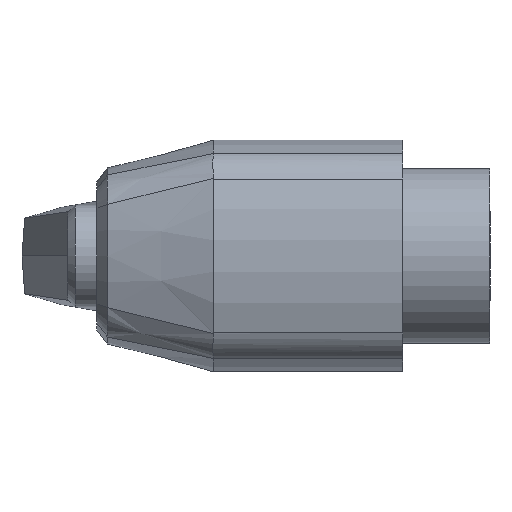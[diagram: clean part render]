
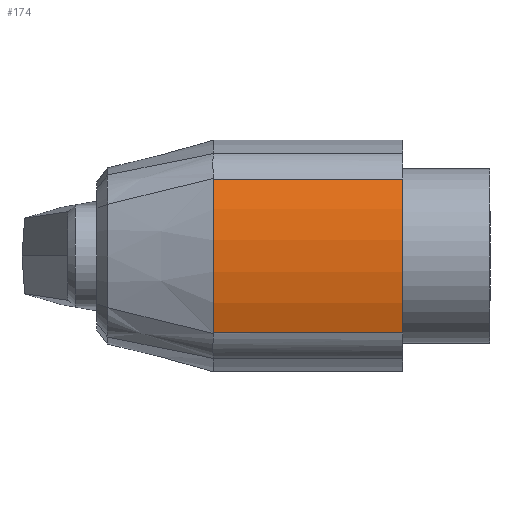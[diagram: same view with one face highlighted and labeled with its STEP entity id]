
A CAD part, left-side view. The second image highlights one B-rep face of the part: STEP entity #174.
In plain terms, the highlighted cylindrical face has radius 15.262 mm (diameter 30.524 mm), a partial arc.
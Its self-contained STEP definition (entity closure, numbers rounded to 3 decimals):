
#25 = ORIENTED_EDGE ( 'NONE', *, *, #1451, .T. ) ;
#37 = DIRECTION ( 'NONE',  ( 0., -1., 0. ) ) ;
#56 = EDGE_LOOP ( 'NONE', ( #197, #1170, #838, #25 ) ) ;
#96 = EDGE_CURVE ( 'NONE', #1201, #479, #298, .T. ) ;
#113 = DIRECTION ( 'NONE',  ( 0., 1., 0. ) ) ;
#174 = ADVANCED_FACE ( 'NONE', ( #467 ), #793, .T. ) ;
#197 = ORIENTED_EDGE ( 'NONE', *, *, #96, .F. ) ;
#298 = CIRCLE ( 'NONE', #1549, 15.262 ) ;
#373 = CARTESIAN_POINT ( 'NONE',  ( -7.057, 13., -5.281 ) ) ;
#393 = CARTESIAN_POINT ( 'NONE',  ( -7.057, 0., 5.281 ) ) ;
#406 = DIRECTION ( 'NONE',  ( 0., 0., -1. ) ) ;
#467 = FACE_OUTER_BOUND ( 'NONE', #56, .T. ) ;
#479 = VERTEX_POINT ( 'NONE', #1604 ) ;
#555 = CARTESIAN_POINT ( 'NONE',  ( -7.057, 13., -5.281 ) ) ;
#634 = DIRECTION ( 'NONE',  ( 0., 1., 0. ) ) ;
#635 = VECTOR ( 'NONE', #634, 1000. ) ;
#638 = VERTEX_POINT ( 'NONE', #393 ) ;
#674 = CIRCLE ( 'NONE', #1761, 15.262 ) ;
#679 = DIRECTION ( 'NONE',  ( 0., 0., 1. ) ) ;
#793 = CYLINDRICAL_SURFACE ( 'NONE', #928, 15.262 ) ;
#838 = ORIENTED_EDGE ( 'NONE', *, *, #1697, .T. ) ;
#852 = EDGE_CURVE ( 'NONE', #1201, #1051, #1054, .T. ) ;
#883 = CARTESIAN_POINT ( 'NONE',  ( 7.262, 13., 0. ) ) ;
#928 = AXIS2_PLACEMENT_3D ( 'NONE', #883, #37, #1315 ) ;
#1051 = VERTEX_POINT ( 'NONE', #1380 ) ;
#1054 = LINE ( 'NONE', #373, #1675 ) ;
#1170 = ORIENTED_EDGE ( 'NONE', *, *, #852, .T. ) ;
#1201 = VERTEX_POINT ( 'NONE', #555 ) ;
#1315 = DIRECTION ( 'NONE',  ( 0., 0., -1. ) ) ;
#1380 = CARTESIAN_POINT ( 'NONE',  ( -7.057, 0., -5.281 ) ) ;
#1451 = EDGE_CURVE ( 'NONE', #638, #479, #1602, .T. ) ;
#1505 = DIRECTION ( 'NONE',  ( 0., -1., 0. ) ) ;
#1508 = CARTESIAN_POINT ( 'NONE',  ( -7.057, 13., 5.281 ) ) ;
#1522 = DIRECTION ( 'NONE',  ( 0., 1., 0. ) ) ;
#1549 = AXIS2_PLACEMENT_3D ( 'NONE', #1826, #1522, #406 ) ;
#1602 = LINE ( 'NONE', #1508, #635 ) ;
#1604 = CARTESIAN_POINT ( 'NONE',  ( -7.057, 13., 5.281 ) ) ;
#1672 = CARTESIAN_POINT ( 'NONE',  ( 7.262, 0., 0. ) ) ;
#1675 = VECTOR ( 'NONE', #1505, 1000. ) ;
#1697 = EDGE_CURVE ( 'NONE', #1051, #638, #674, .T. ) ;
#1761 = AXIS2_PLACEMENT_3D ( 'NONE', #1672, #113, #679 ) ;
#1826 = CARTESIAN_POINT ( 'NONE',  ( 7.262, 13., 0. ) ) ;
